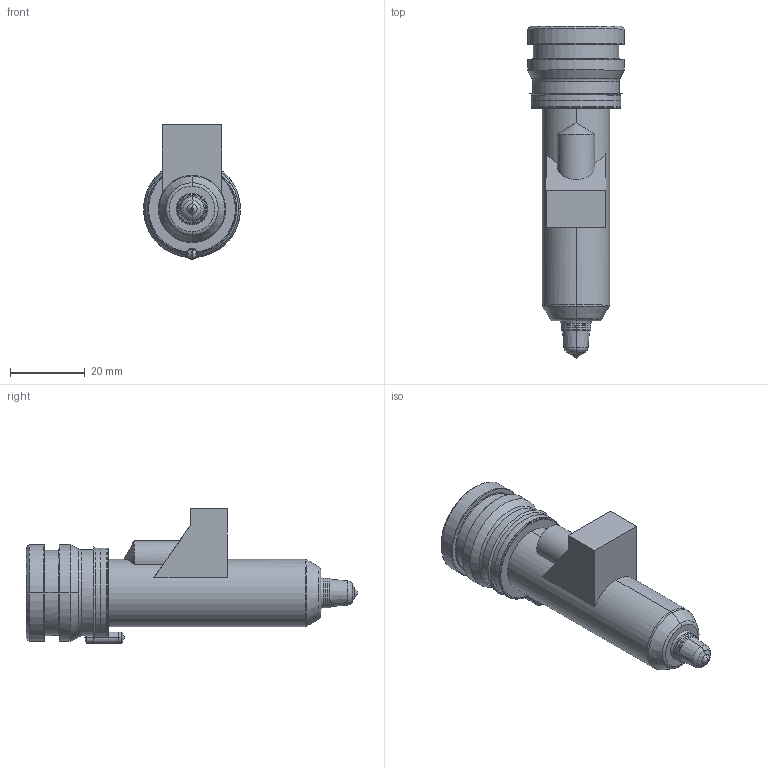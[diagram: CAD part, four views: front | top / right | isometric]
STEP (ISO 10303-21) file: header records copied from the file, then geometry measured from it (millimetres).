
FILE_DESCRIPTION((''),'2;1');
FILE_NAME('TH18071-M-1B50-PK-JG','2023-12-14T',('umhib'),('Thermoplay S.p.A.'),'PRO/ENGINEER BY PARAMETRIC TECHNOLOGY CORPORATION, 2017170','PRO/ENGINEER BY PARAMETRIC TECHNOLOGY CORPORATION, 2017170','');
FILE_SCHEMA(('CONFIG_CONTROL_DESIGN'));
Length unit declared in the file: millimetre
Products named in the file (1): TH18071-M-1B50-PK-JG
Bounding box: 26 x 89 x 36.1 mm (x, y, z)
Volume: 18916.4 mm3; surface area: 14863.9 mm2
Topology: 1 solids, 2 shells, 389 faces, 993 edges, 609 vertices
Faces by surface type: cylinder 149, plane 87, cone 62, torus 56, bspline 22, sphere 11, extrusion 2
Entity records: 16891 total; most frequent: CARTESIAN_POINT 5248, DIRECTION 1992, ORIENTED_EDGE 1960, EDGE_CURVE 982, AXIS2_PLACEMENT_3D 802, VERTEX_POINT 609, CIRCLE 436, EDGE_LOOP 412
